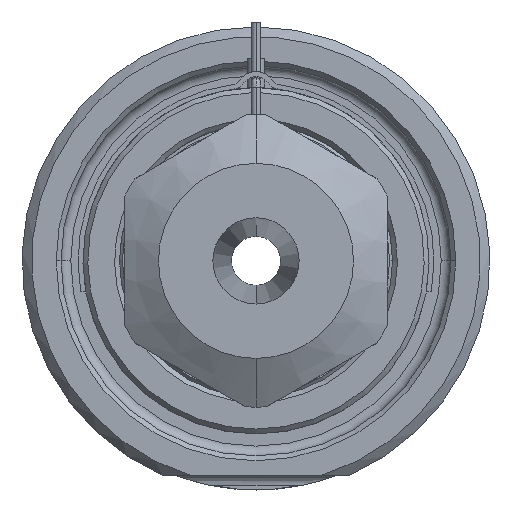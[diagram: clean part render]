
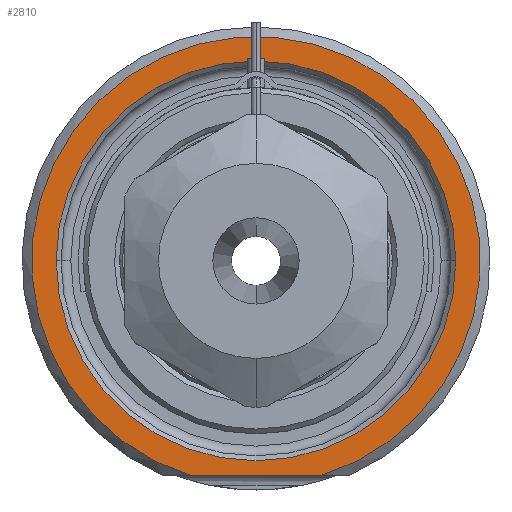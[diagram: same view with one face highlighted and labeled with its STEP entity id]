
A CAD part, front view. The second image highlights one B-rep face of the part: STEP entity #2810.
In plain terms, the highlighted planar face has unit normal (0, -1, 0).
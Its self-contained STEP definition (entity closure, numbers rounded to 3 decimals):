
#1=DIRECTION('',(1.,0.,0.));
#2=VECTOR('',#1,13.416);
#3=CARTESIAN_POINT('',(-6.708,0.,-22.));
#4=LINE('',#3,#2);
#5=CARTESIAN_POINT('',(0.,0.,0.));
#6=DIRECTION('',(0.,1.,0.));
#7=DIRECTION('',(-1.,0.,0.));
#8=AXIS2_PLACEMENT_3D('',#5,#6,#7);
#10=CARTESIAN_POINT('',(0.,0.,0.));
#11=DIRECTION('',(0.,1.,0.));
#12=DIRECTION('',(1.,0.,0.));
#13=AXIS2_PLACEMENT_3D('',#10,#11,#12);
#121=CARTESIAN_POINT('',(0.,0.,0.));
#122=DIRECTION('',(0.,-1.,0.));
#123=DIRECTION('',(0.292,0.,-0.957));
#124=AXIS2_PLACEMENT_3D('',#121,#122,#123);
#2327=CARTESIAN_POINT('',(-20.5,0.,0.));
#2328=CARTESIAN_POINT('',(20.5,0.,0.));
#2329=VERTEX_POINT('',#2327);
#2330=VERTEX_POINT('',#2328);
#2367=CARTESIAN_POINT('',(-6.708,0.,-22.));
#2368=CARTESIAN_POINT('',(6.708,0.,-22.));
#2369=VERTEX_POINT('',#2367);
#2370=VERTEX_POINT('',#2368);
#2793=CARTESIAN_POINT('',(0.,0.,0.));
#2794=DIRECTION('',(0.,-1.,0.));
#2795=DIRECTION('',(1.,0.,0.));
#2796=AXIS2_PLACEMENT_3D('',#2793,#2794,#2795);
#2797=PLANE('',#2796);
#2799=ORIENTED_EDGE('',*,*,#2798,.F.);
#2801=ORIENTED_EDGE('',*,*,#2800,.F.);
#2802=EDGE_LOOP('',(#2799,#2801));
#2803=FACE_OUTER_BOUND('',#2802,.F.);
#2805=ORIENTED_EDGE('',*,*,#2804,.F.);
#2807=ORIENTED_EDGE('',*,*,#2806,.F.);
#2808=EDGE_LOOP('',(#2805,#2807));
#2809=FACE_BOUND('',#2808,.F.);
#2810=ADVANCED_FACE('',(#2803,#2809),#2797,.T.);
#9=CIRCLE('',#8,20.5);
#14=CIRCLE('',#13,20.5);
#125=CIRCLE('',#124,23.);
#2798=EDGE_CURVE('',#2369,#2370,#4,.T.);
#2800=EDGE_CURVE('',#2370,#2369,#125,.T.);
#2804=EDGE_CURVE('',#2329,#2330,#9,.T.);
#2806=EDGE_CURVE('',#2330,#2329,#14,.T.);
